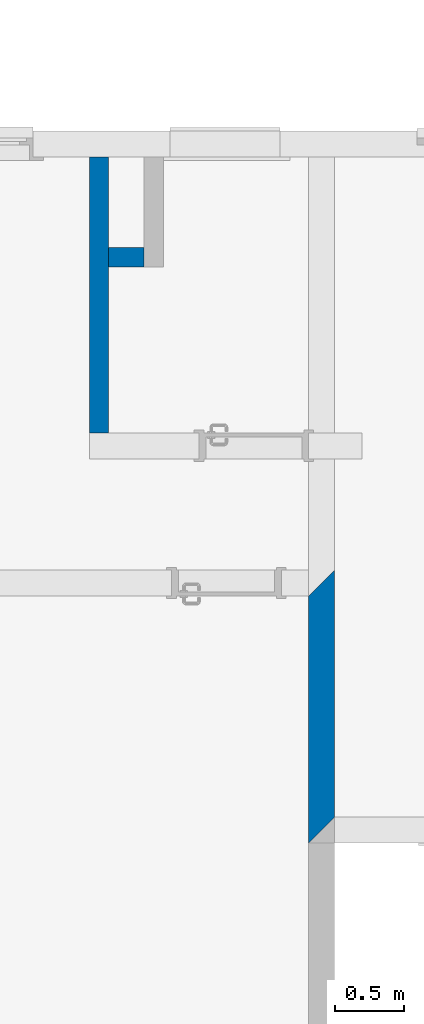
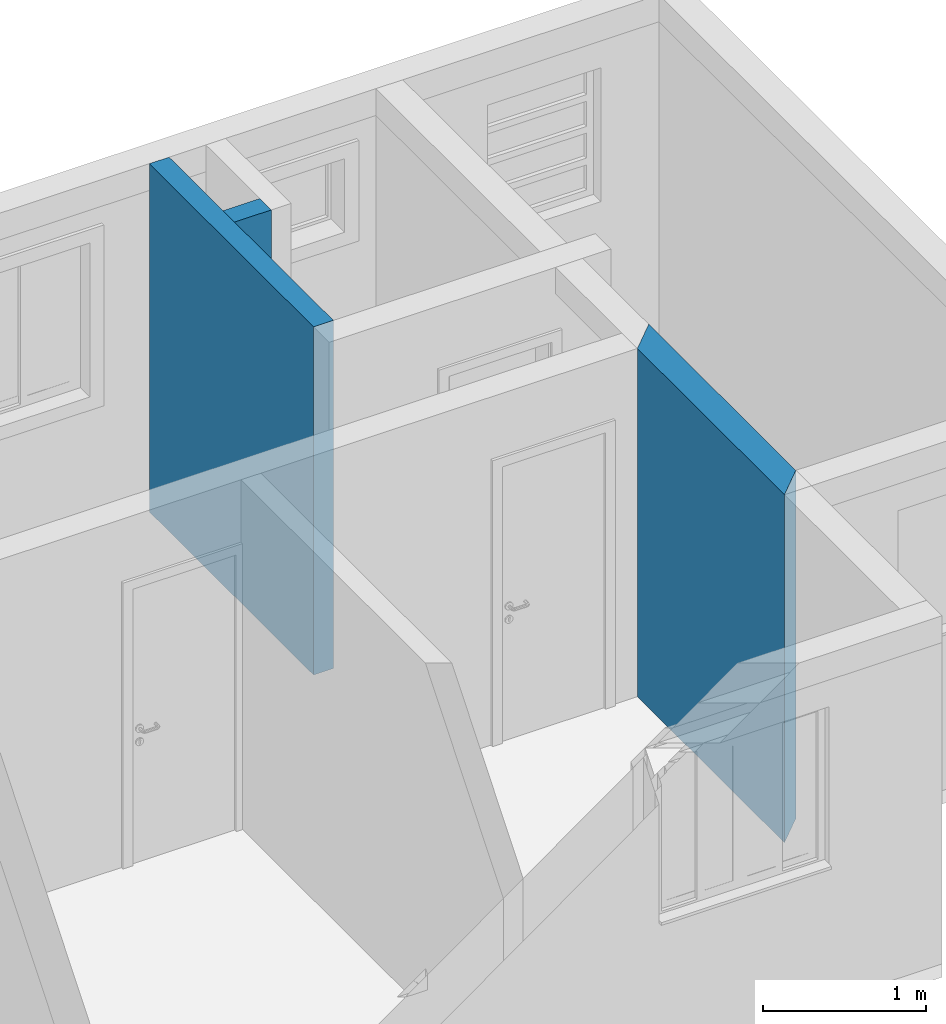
# One storey, part 20 of 47: 3 walls.
"""IFC2X3 building model written with IfcOpenShell, lengths in millimetres."""

from ifc_helpers import new_model, entity, si_unit, converted_unit, derived_unit, money_unit, direction, frame, origin_with_axes, place, context, subcontext, project, spatial, polyline, outline, extrude, material, layer, layer_set, layer_usage, type_object, element, save


model = new_model("IFC2X3")

# Units and contexts
model_context = context("Model", 3, precision=0.01, world=origin_with_axes(), true_north=direction((0.0, 1.0)))
body_context = subcontext(model_context, "Body", "Model", "MODEL_VIEW")
ifc_project = project(units=[si_unit("LENGTHUNIT", "METRE", prefix="MILLI"), si_unit("AREAUNIT", "SQUARE_METRE"), si_unit("VOLUMEUNIT", "CUBIC_METRE"), converted_unit("PLANEANGLEUNIT", "DEGREE", entity("IfcPlaneAngleMeasure", 0.0174532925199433), si_unit("PLANEANGLEUNIT", "RADIAN"), dimensions=[0, 0, 0, 0, 0, 0, 0]), money_unit("USD"), converted_unit("TIMEUNIT", "Year", entity("IfcTimeMeasure", 31557600.0), si_unit("TIMEUNIT", "SECOND"), dimensions=[0, 0, 1, 0, 0, 0, 0]), si_unit("MASSUNIT", "GRAM", prefix="KILO"), si_unit("THERMODYNAMICTEMPERATUREUNIT", "DEGREE_CELSIUS"), si_unit("LUMINOUSINTENSITYUNIT", "LUMEN"), si_unit("ENERGYUNIT", "JOULE", prefix="MEGA"), derived_unit("THERMALCONDUCTANCEUNIT", [(si_unit("POWERUNIT", "WATT"), 1), (si_unit("LENGTHUNIT", "METRE"), -1), (si_unit("THERMODYNAMICTEMPERATUREUNIT", "KELVIN"), -1)]), derived_unit("SPECIFICHEATCAPACITYUNIT", [(si_unit("ENERGYUNIT", "JOULE"), 1), (si_unit("MASSUNIT", "GRAM", prefix="KILO"), -1), (si_unit("THERMODYNAMICTEMPERATUREUNIT", "KELVIN"), -1)]), derived_unit("MASSDENSITYUNIT", [(si_unit("MASSUNIT", "GRAM", prefix="KILO"), 1), (si_unit("VOLUMEUNIT", "CUBIC_METRE"), -1)])], contexts=[model_context])

# Site, building, storey
site_placement = place(None, origin_with_axes())
site = spatial("IfcSite", under=ifc_project, at=site_placement, Name="Local", CompositionType="ELEMENT")
building_placement = place(site_placement, origin_with_axes())
building = spatial("IfcBuilding", under=site, at=building_placement, Name="Construção", CompositionType="ELEMENT")
storey_placement = place(building_placement, origin_with_axes())
storey = spatial("IfcBuildingStorey", under=building, at=storey_placement, Name="Pavimento Tipo", CompositionType="ELEMENT", Elevation=0.0)

# Walls
ifc_material_1 = material(Name="Concreto - Estrutural")
ifc_layer_1 = layer(ifc_material_1, 190.0, ventilated="UNKNOWN")
ifc_layer_set_1 = layer_set([ifc_layer_1], Name="Concreto - Estrutural 190")
ifc_layer_usage_1 = layer_usage(ifc_layer_set_1, "AXIS2", "POSITIVE", 0.0)
wall_type_1 = type_object("IfcWallType", Name="Concreto - Estrutural 190", PredefinedType="NOTDEFINED")
wall_1_placement = place(storey_placement, frame((6442.566997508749, -3.018582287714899, 0.0), z_axis=(0.0, 0.0, 1.0), x_axis=(0.0, 1.0, 0.0)))
element("IfcWallStandardCase", 1, at=wall_1_placement, inside=storey, type_object=wall_type_1, material=ifc_layer_usage_1, Name="Apartamento 4 - Parede-083", context=body_context, shape_type="SweptSolid", body=[
    extrude(outline(polyline([(189.9999999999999, 0.0), (1990.0, 0.0), (1800.0, 190.0000000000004), (0.0, 190.0000000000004), (189.9999999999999, 0.0)])), origin_with_axes(), (0.0, 0.0, 1.0), 2600.0),
])
ifc_material_2 = material(Name="Concreto")
ifc_layer_2 = layer(ifc_material_2, 140.0, ventilated="UNKNOWN")
ifc_layer_set_2 = layer_set([ifc_layer_2], Name="Concreto 140")
ifc_layer_usage_2 = layer_usage(ifc_layer_set_2, "AXIS2", "POSITIVE", -140.0)
wall_type_2 = type_object("IfcWallType", Name="Concreto 140", PredefinedType="NOTDEFINED")
wall_2_placement = place(storey_placement, frame((4792.56699750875, 4996.981417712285, 0.0), z_axis=(0.0, 0.0, 1.0), x_axis=(0.0, -1.0, 0.0)))
element("IfcWallStandardCase", 2, at=wall_2_placement, inside=storey, type_object=wall_type_2, material=ifc_layer_usage_2, Name="Apartamento 4 - Parede-094", context=body_context, shape_type="SweptSolid", body=[
    extrude(outline(polyline([(0.0, -139.9999999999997), (2010.000000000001, -139.9999999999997), (2010.000000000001, 0.0), (0.0, 0.0), (0.0, -139.9999999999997)])), origin_with_axes(), (0.0, 0.0, 1.0), 2600.0),
])
ifc_layer_usage_3 = layer_usage(ifc_layer_set_2, "AXIS2", "POSITIVE", -140.0)
wall_3_placement = place(storey_placement, frame((5052.566997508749, 4196.981417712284, 0.0), z_axis=(0.0, 0.0, 1.0), x_axis=(-1.0, 0.0, 0.0)))
element("IfcWallStandardCase", 3, at=wall_3_placement, inside=storey, type_object=wall_type_2, material=ifc_layer_usage_3, Name="Apartamento 4 - Parede-097", context=body_context, shape_type="SweptSolid", body=[
    extrude(outline(polyline([(0.0, -139.9999999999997), (259.9999999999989, -139.9999999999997), (259.9999999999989, 0.0), (0.0, 0.0), (0.0, -139.9999999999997)])), origin_with_axes(), (0.0, 0.0, 1.0), 2600.0),
])

save(model, "model.ifc")
